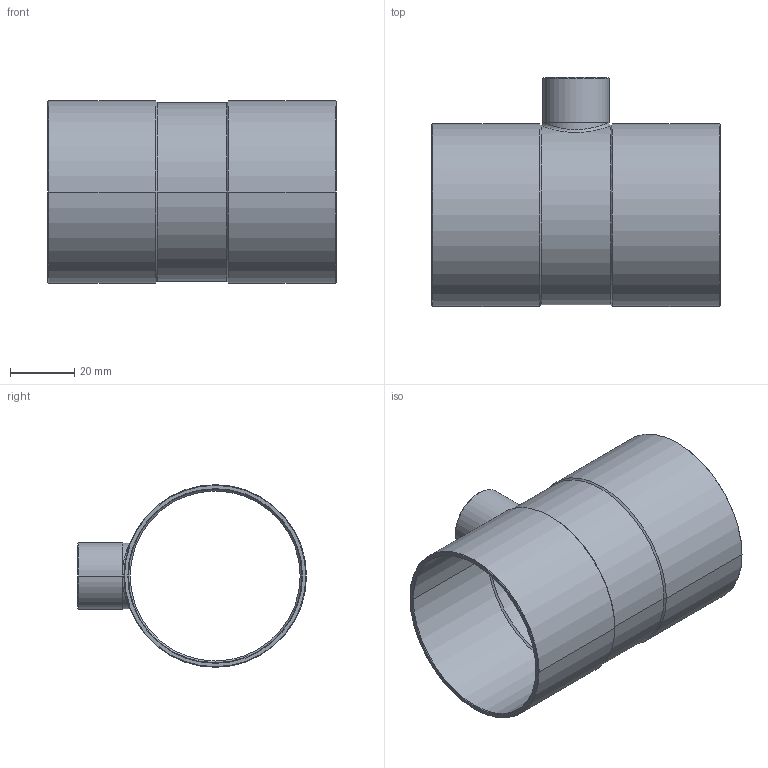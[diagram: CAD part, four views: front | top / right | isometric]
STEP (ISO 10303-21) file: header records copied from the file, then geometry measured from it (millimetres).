
FILE_DESCRIPTION((''),'2;1');
FILE_NAME('G:\Technics\CAD\Bauteile\15130\15130541854.stp','2005-11-02T10:19:54',('boden'),(''),'Autodesk Inventor 8','Autodesk Inventor 8','');
FILE_SCHEMA(('AUTOMOTIVE_DESIGN { 1 0 10303 214 1 1 1 1 }'));
Length unit declared in the file: millimetre
Products named in the file (1): 15130541854
Bounding box: 90 x 71.53 x 57.05 mm (x, y, z)
Volume: 23720.4 mm3; surface area: 33318.7 mm2
Topology: 1 solids, 1 shells, 49 faces, 114 edges, 66 vertices
Faces by surface type: cone 24, cylinder 20, plane 3, bspline 2
Entity records: 1801 total; most frequent: CARTESIAN_POINT 671, DIRECTION 236, ORIENTED_EDGE 228, EDGE_CURVE 114, AXIS2_PLACEMENT_3D 98, VERTEX_POINT 66, EDGE_LOOP 52, CIRCLE 50
